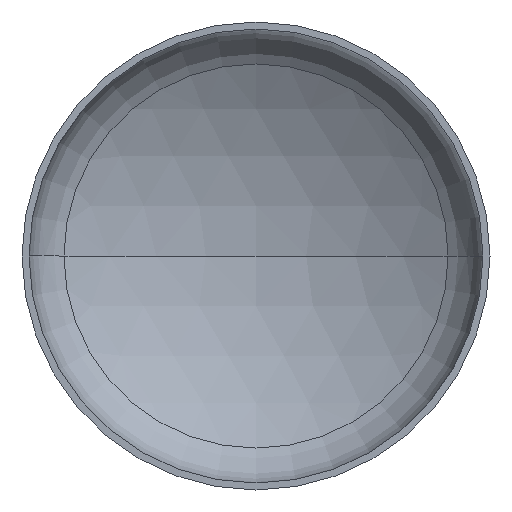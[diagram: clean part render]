
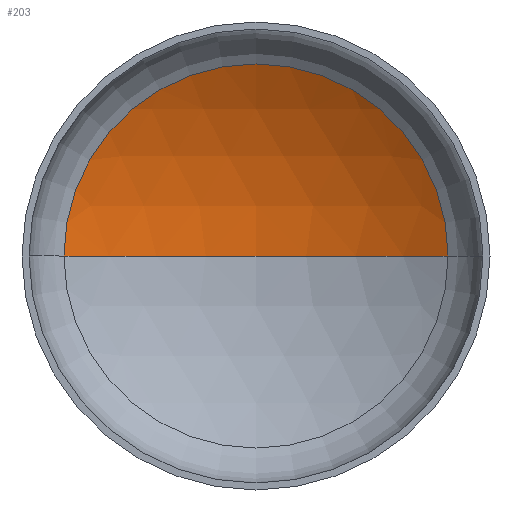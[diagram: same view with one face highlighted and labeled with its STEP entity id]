
A CAD part, front view. The second image highlights one B-rep face of the part: STEP entity #203.
In plain terms, the highlighted spherical face has radius 2560 mm.
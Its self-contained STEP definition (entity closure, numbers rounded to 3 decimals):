
#2 = DIRECTION ( 'NONE',  ( 0., 0., -1. ) ) ;
#4 = AXIS2_PLACEMENT_3D ( 'NONE', #283, #116, #245 ) ;
#11 = AXIS2_PLACEMENT_3D ( 'NONE', #158, #104, #303 ) ;
#16 = AXIS2_PLACEMENT_3D ( 'NONE', #63, #380, #241 ) ;
#32 = AXIS2_PLACEMENT_3D ( 'NONE', #377, #2, #215 ) ;
#36 = EDGE_LOOP ( 'NONE', ( #152, #164, #97 ) ) ;
#63 = CARTESIAN_POINT ( 'NONE',  ( 0., 570.598, 0. ) ) ;
#92 = SPHERICAL_SURFACE ( 'NONE', #32, 2560. ) ;
#97 = ORIENTED_EDGE ( 'NONE', *, *, #324, .T. ) ;
#104 = DIRECTION ( 'NONE',  ( 0., 0., -1. ) ) ;
#114 = VERTEX_POINT ( 'NONE', #191 ) ;
#116 = DIRECTION ( 'NONE',  ( 0., 0., 1. ) ) ;
#152 = ORIENTED_EDGE ( 'NONE', *, *, #381, .F. ) ;
#158 = CARTESIAN_POINT ( 'NONE',  ( 0., -1626.811, 0. ) ) ;
#161 = VERTEX_POINT ( 'NONE', #208 ) ;
#164 = ORIENTED_EDGE ( 'NONE', *, *, #329, .T. ) ;
#191 = CARTESIAN_POINT ( 'NONE',  ( 0., 933.189, 0. ) ) ;
#203 = ADVANCED_FACE ( 'NONE', ( #320 ), #92, .F. ) ;
#208 = CARTESIAN_POINT ( 'NONE',  ( -1313.391, 570.598, 0. ) ) ;
#215 = DIRECTION ( 'NONE',  ( -1., 0., 0. ) ) ;
#235 = CIRCLE ( 'NONE', #16, 1313.391 ) ;
#241 = DIRECTION ( 'NONE',  ( 1., 0., 0. ) ) ;
#243 = CARTESIAN_POINT ( 'NONE',  ( 1313.391, 570.598, 0. ) ) ;
#245 = DIRECTION ( 'NONE',  ( 1., 0., 0. ) ) ;
#279 = CIRCLE ( 'NONE', #4, 2560. ) ;
#283 = CARTESIAN_POINT ( 'NONE',  ( 0., -1626.811, 0. ) ) ;
#303 = DIRECTION ( 'NONE',  ( -1., 0., 0. ) ) ;
#320 = FACE_OUTER_BOUND ( 'NONE', #36, .T. ) ;
#324 = EDGE_CURVE ( 'NONE', #366, #161, #235, .T. ) ;
#329 = EDGE_CURVE ( 'NONE', #114, #366, #359, .T. ) ;
#359 = CIRCLE ( 'NONE', #11, 2560. ) ;
#366 = VERTEX_POINT ( 'NONE', #243 ) ;
#377 = CARTESIAN_POINT ( 'NONE',  ( 0., -1626.811, 0. ) ) ;
#380 = DIRECTION ( 'NONE',  ( 0., -1., 0. ) ) ;
#381 = EDGE_CURVE ( 'NONE', #114, #161, #279, .T. ) ;
